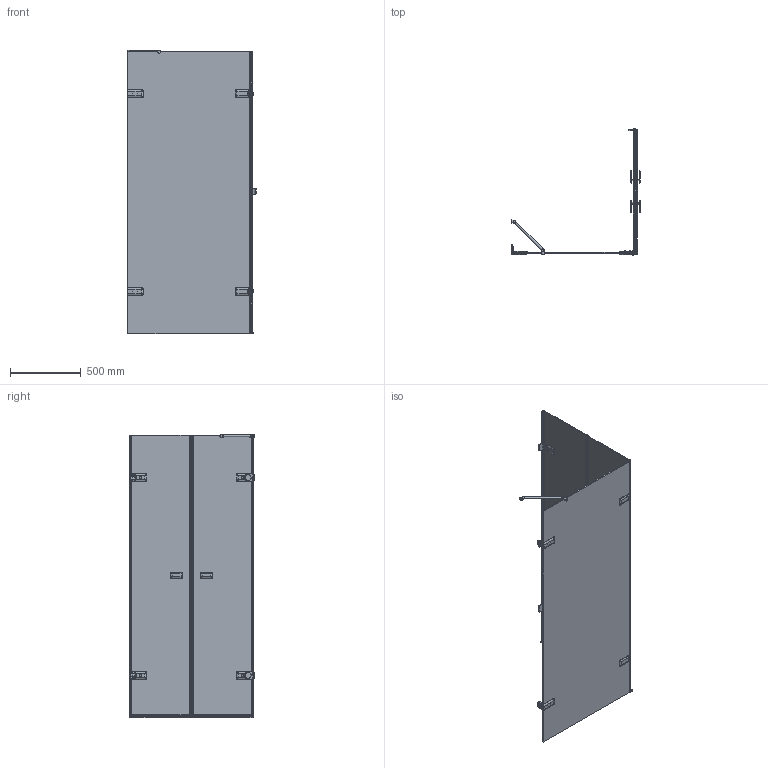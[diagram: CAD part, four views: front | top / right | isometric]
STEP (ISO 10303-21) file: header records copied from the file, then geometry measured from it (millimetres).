
FILE_DESCRIPTION(/* description */ (''),/* implementation_level */ '2;1');
FILE_NAME(/* name */ 'E:\Работа\Сергей\Душевые кабинки\! Работа\!!!\TREND SQUARE GK-863KTWO\TREND SQUARE GK-863KTWO правая модель\TREND SQUARE GK-863KTWO ПРАВАЯ-3D.stp',/* time_stamp */ '2017-11-06T17:23:40+03:00',/* author */ ('PC'),/* organization */ (''),/* preprocessor_version */ 'ST-DEVELOPER v15.2',/* originating_system */ 'Autodesk Inventor 2014',/* authorisation */ '');
FILE_SCHEMA (('AUTOMOTIVE_DESIGN { 1 0 10303 214 3 1 1 }'));
Products named in the file (1): TREND SQUARE GK-863KTWO ПРАВАЯ-
3D
Bounding box: 912.6 x 890.5 x 2009.49 mm (x, y, z)
Volume: 25779373.9 mm3; surface area: 7582015.6 mm2
Topology: 9 solids, 23 shells, 2025 faces, 5371 edges, 3330 vertices
Faces by surface type: plane 1175, cylinder 548, bspline 202, torus 57, cone 26, sphere 17
Full cylindrical faces by diameter (mm): 4.917 x4, 6 x2, 9 x8, 12 x2, 13 x2, 15 x1, 20 x2, 26 x1, 28 x2, 28.5 x2, 40 x2
Entity records: 81962 total; most frequent: CARTESIAN_POINT 30718, ORIENTED_EDGE 10436, DIRECTION 9987, EDGE_CURVE 5216, LINE 3339, VECTOR 3339, AXIS2_PLACEMENT_3D 3324, VERTEX_POINT 3306
